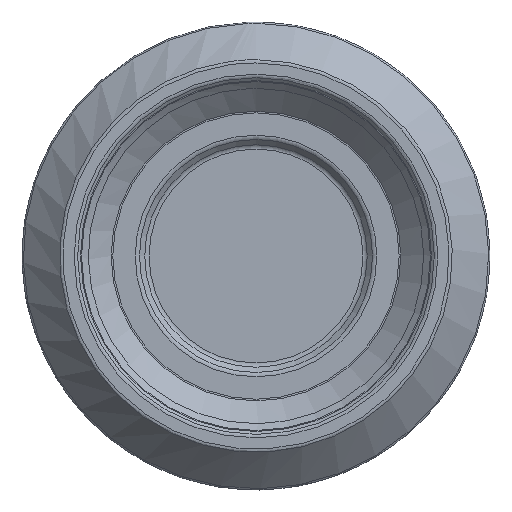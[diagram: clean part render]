
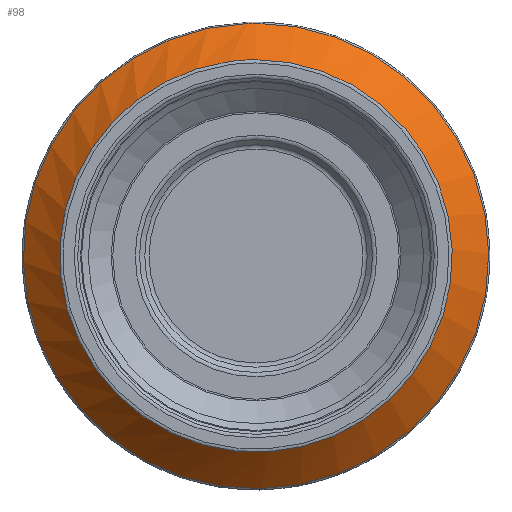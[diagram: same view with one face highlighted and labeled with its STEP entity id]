
A CAD part, left-side view. The second image highlights one B-rep face of the part: STEP entity #98.
In plain terms, the highlighted face is a revolution surface.
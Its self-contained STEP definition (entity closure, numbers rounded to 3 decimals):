
#47=SURFACE_OF_REVOLUTION('',#63,#56);
#56=AXIS1_PLACEMENT('',#527,#433);
#63=LINE('',#526,#68);
#68=VECTOR('',#432,9.13);
#98=ADVANCED_FACE('',(#135,#136),#47,.T.);
#135=FACE_BOUND('',#182,.T.);
#136=FACE_BOUND('',#183,.T.);
#182=EDGE_LOOP('',(#230));
#183=EDGE_LOOP('',(#231));
#230=ORIENTED_EDGE('',*,*,#292,.F.);
#231=ORIENTED_EDGE('',*,*,#291,.T.);
#267=VERTEX_POINT('',#521);
#268=VERTEX_POINT('',#525);
#291=EDGE_CURVE('',#267,#267,#316,.T.);
#292=EDGE_CURVE('',#268,#268,#318,.T.);
#316=CIRCLE('',#352,38.275);
#318=CIRCLE('',#354,32.284);
#352=AXIS2_PLACEMENT_3D('',#520,#425,#426);
#354=AXIS2_PLACEMENT_3D('',#524,#430,#431);
#425=DIRECTION('',(-1.,0.,0.));
#426=DIRECTION('',(0.,0.,1.));
#430=DIRECTION('',(-1.,0.,0.));
#431=DIRECTION('',(0.,0.,1.));
#432=DIRECTION('',(-0.646,-0.632,-0.428));
#433=DIRECTION('',(-1.,0.,0.));
#520=CARTESIAN_POINT('',(6.112,0.,0.));
#521=CARTESIAN_POINT('',(6.112,0.,38.275));
#524=CARTESIAN_POINT('',(0.214,0.,0.));
#525=CARTESIAN_POINT('',(0.214,0.,32.284));
#526=CARTESIAN_POINT('',(6.112,38.053,4.122));
#527=CARTESIAN_POINT('',(0.,0.,0.));
